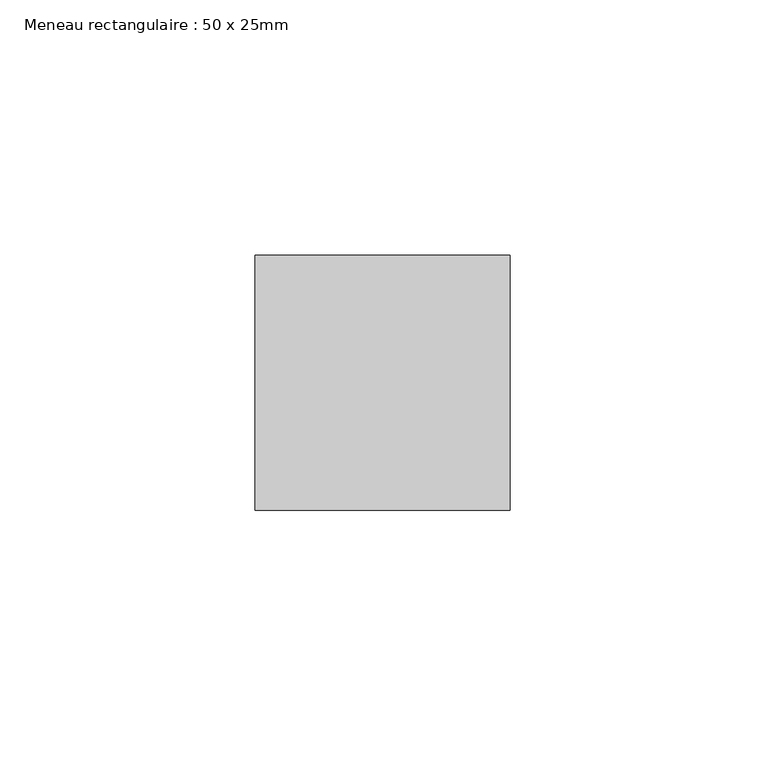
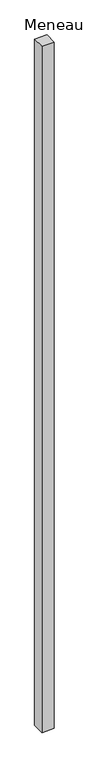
"""IFC4 building model written with IfcOpenShell, lengths in millimetres: member geometry, Meneau rectangulaire : 50 x 25mm."""

from ifc_helpers import new_model, si_unit, frame, origin, place, context, project, spatial, polyline, outline, extrude, source, transform, mapped, element, save


def meneau_rectangulaire_50_x_25mm_f45b8cb4(model_context):
    return source(origin(), model_context, "Body", "SweptSolid", [
        extrude(outline(polyline([(0.0, 0.0), (0.0, -50.0), (-50.0, -50.0), (-50.0, 0.0), (0.0, 0.0)])), frame((0.0, 0.0, -2925.0), z_axis=(0.0, 0.0, 1.0), x_axis=(1.0, 0.0, 0.0)), (0.0, 0.0, 1.0), 2925.0),
    ])


if __name__ == "__main__":
    model = new_model("IFC4")
    model_context = context("Model", 3, world=origin())
    ifc_project = project(units=[si_unit("LENGTHUNIT", "METRE", prefix="MILLI")], contexts=[model_context])
    site = spatial("IfcSite", under=ifc_project)
    building = spatial("IfcBuilding", under=site)
    placement = place(None, origin())
    meneau_rectangulaire_50_x_25mm_shape = meneau_rectangulaire_50_x_25mm_f45b8cb4(model_context)
    element("IfcMember", 1, ObjectType="Meneau rectangulaire : 50 x 25mm", at=placement, inside=building, context=model_context, shape_type="MappedRepresentation", body=[
        mapped(meneau_rectangulaire_50_x_25mm_shape, transform((0.0, 0.0, 0.0), x_axis=(1.0, 0.0, 0.0), y_axis=(0.0, 1.0, 0.0), z_axis=(0.0, 0.0, 1.0))),
    ])
    save(model, "model.ifc")
